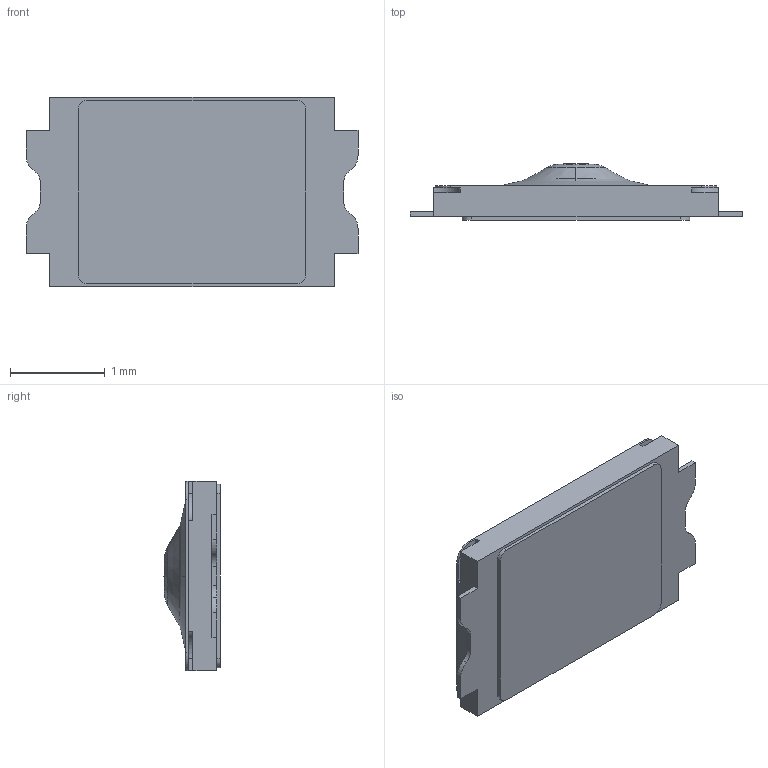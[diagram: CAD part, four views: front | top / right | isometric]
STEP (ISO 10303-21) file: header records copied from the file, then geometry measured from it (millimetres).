
FILE_DESCRIPTION (( 'STEP AP214' ), '1' );
FILE_NAME ('SKSWCx_3D.STEP', '2013-11-26T07:01:06', ( 'USER' ), ( 'Hewlett-Packard Company' ), 'SwSTEP 2.0', 'SolidWorks 2012', '' );
FILE_SCHEMA (( 'AUTOMOTIVE_DESIGN' ));
Length unit declared in the file: millimetre
Products named in the file (1): SKSWCx_3D
Bounding box: 3.5 x 0.6 x 2 mm (x, y, z)
Volume: 2.3 mm3; surface area: 17.4 mm2
Topology: 1 solids, 1 shells, 71 faces, 193 edges, 126 vertices
Faces by surface type: plane 39, cylinder 20, bspline 8, cone 4
Entity records: 3211 total; most frequent: CARTESIAN_POINT 573, DIRECTION 386, ORIENTED_EDGE 386, EDGE_CURVE 193, AXIS2_PLACEMENT_3D 131, VERTEX_POINT 126, LINE 124, VECTOR 124
